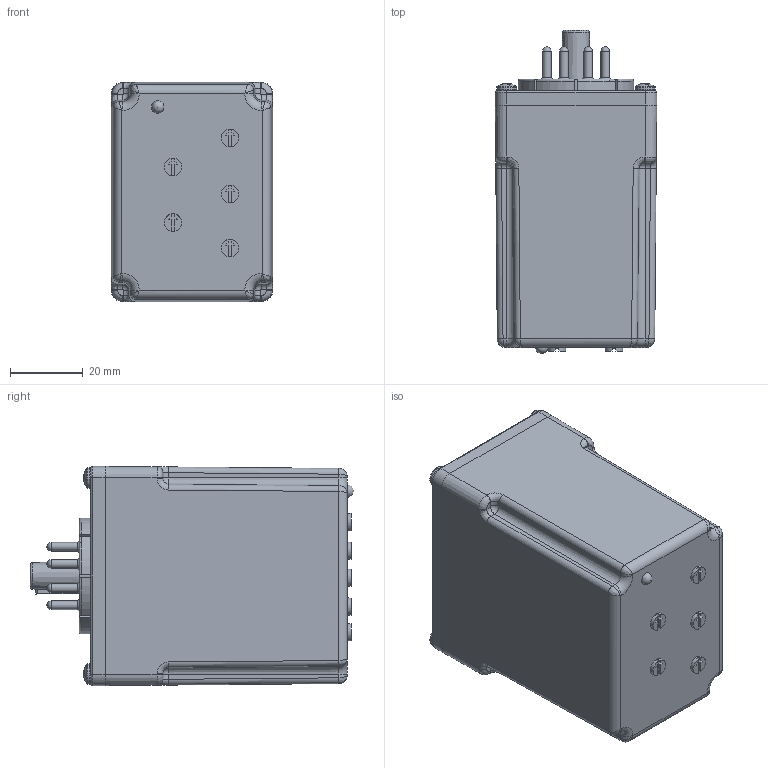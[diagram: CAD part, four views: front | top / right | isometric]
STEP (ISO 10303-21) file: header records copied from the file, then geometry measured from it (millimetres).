
FILE_DESCRIPTION(('FreeCAD Model'),'2;1');
FILE_NAME('Open CASCADE Shape Model','2023-06-06T12:59:52',(''),(''), 'Open CASCADE STEP processor 7.6','FreeCAD','Unknown');
FILE_SCHEMA(('AUTOMOTIVE_DESIGN { 1 0 10303 214 1 1 1 1 }'));
Products named in the file (1): Compound
Bounding box: 44.45 x 88.95 x 60.33 mm (x, y, z)
Surface area: 43803.9 mm2 (no closed solid volume)
Topology: 0 solids, 24 shells, 1912 faces, 4897 edges, 3043 vertices
Faces by surface type: plane 750, cylinder 687, bspline 200, torus 121, cone 57, sphere 57, revolution 40
Full cylindrical faces by diameter (mm): 0.254 x16, 1.257 x8, 1.714 x8, 1.905 x16, 2.362 x16, 2.464 x8, 3.175 x4, 4.191 x8, 4.83 x5, 7.925 x1
Entity records: 178185 total; most frequent: CARTESIAN_POINT 85822, DIRECTION 15841, ORIENTED_EDGE 9648, PCURVE 9648, DEFINITIONAL_REPRESENTATION 9648, LINE 9482, VECTOR 9482, EDGE_CURVE 4832
